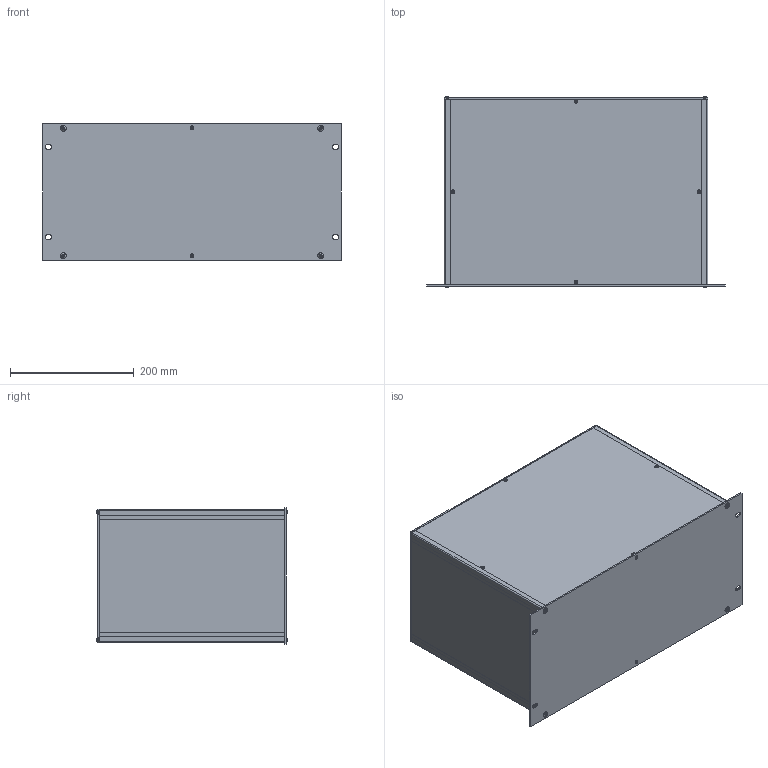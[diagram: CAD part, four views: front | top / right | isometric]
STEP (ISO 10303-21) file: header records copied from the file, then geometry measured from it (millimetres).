
FILE_DESCRIPTION(/* description */ (''),/* implementation_level */ '2;1');
FILE_NAME(/* name */ '//diskstation/Kunden/Gehäuse/Gehäuse/5HE/step/19 Zoll 5HE Rack Gehäuse Tiefe-300.step',/* time_stamp */ '2022-02-17T16:44:07+01:00',/* author */ (''),/* organization */ (''),/* preprocessor_version */ 'ST-DEVELOPER v18.1',/* originating_system */ 'Autodesk Translation Framework v10.10.0.1391',/* authorisation */ '');
FILE_SCHEMA (('AUTOMOTIVE_DESIGN { 1 0 10303 214 3 1 1 }'));
Length unit declared in the file: millimetre
Products named in the file (28): 5HE Gehäuse mit parametern; Gehäuse; Gehäuseprofil 1 unten links; Gehäuseprofil 2 oben rechts; Gehäuseprofil 1 unten rechts; Gehäuseprofil 2 oben links; Rückplatte; Deckel; Seitenteil links; Seitenteil rechts; Bodenplatte; Montageklotz Front/Deckel; Montageklotz Front/Boden; Montageklotz Rück/Deckel; Montageklotz Rück/Boden; Gewindestreifen; Frontplatte; Schrauben M5; Schraube Front; Schraube Front (1); Schraube Front (2); Schraube Front (3); Schraube Rück (1); Schraube Rück; Schraube Rück (2); Schraube Rück (3); Schrauben M3; HI_Senkschraube DIN 965 A v2 M3x5 24677.030.005(High)
Assembly tree (37 placements, depth 3):
  5HE Gehäuse mit parametern
    Gehäuse
      Gehäuseprofil 1 unten links
      Gehäuseprofil 2 oben rechts
      Gehäuseprofil 1 unten rechts
      Gehäuseprofil 2 oben links
      Rückplatte
      Deckel
      Seitenteil links
      Seitenteil rechts
      Bodenplatte
      Montageklotz Front/Deckel
      Montageklotz Front/Boden
      Montageklotz Rück/Deckel
      Montageklotz Rück/Boden
      Gewindestreifen  x2
    Frontplatte
    Schrauben M5
      Schraube Front
      Schraube Front (1)
      Schraube Front (2)
      Schraube Front (3)
      Schraube Rück (1)
      Schraube Rück
      Schraube Rück (2)
      Schraube Rück (3)
    Schrauben M3
      HI_Senkschraube DIN 965 A v2 M3x5 24677.030.005(High)  x10
Bounding box: 483 x 308.2 x 221.4 mm (x, y, z)
Volume: 1462465.6 mm3; surface area: 1264636.6 mm2
Topology: 34 solids, 34 shells, 874 faces, 2136 edges, 1330 vertices
Faces by surface type: cylinder 352, plane 342, cone 164, torus 8, bspline 8
Full cylindrical faces by diameter (mm): 2.529 x110, 3 x10, 3.2 x10, 4.234 x40, 5 x8, 5.2 x4, 5.3 x8, 5.6 x10, 9.5 x8
Entity records: 17235 total; most frequent: CARTESIAN_POINT 3138, DIRECTION 2890, ORIENTED_EDGE 2550, EDGE_CURVE 1275, AXIS2_PLACEMENT_3D 1090, VERTEX_POINT 798, EDGE_LOOP 761, LINE 710
